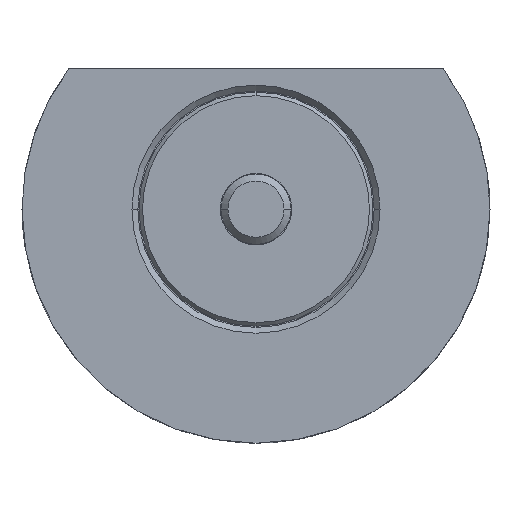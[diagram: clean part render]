
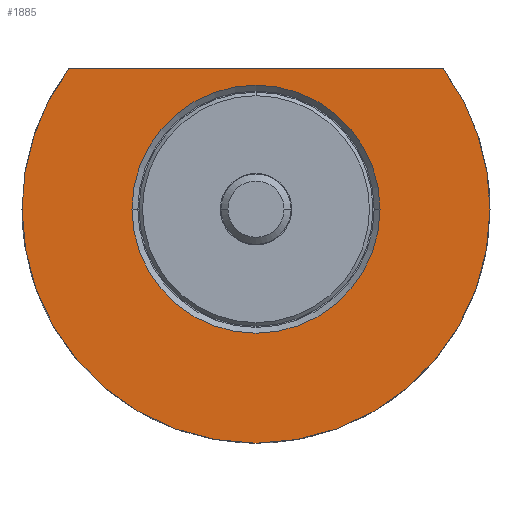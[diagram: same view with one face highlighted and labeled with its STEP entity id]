
A CAD part, front view. The second image highlights one B-rep face of the part: STEP entity #1885.
In plain terms, the highlighted planar face has unit normal (0, -1, 0).
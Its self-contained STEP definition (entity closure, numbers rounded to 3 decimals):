
#42 = VERTEX_POINT ( 'NONE', #680 ) ;
#120 = PLANE ( 'NONE',  #1902 ) ;
#137 = CIRCLE ( 'NONE', #440, 20. ) ;
#162 = EDGE_CURVE ( 'NONE', #2405, #42, #237, .T. ) ;
#188 = CARTESIAN_POINT ( 'NONE',  ( 16.001, -10., 11.999 ) ) ;
#191 = EDGE_CURVE ( 'NONE', #1190, #638, #1950, .T. ) ;
#237 = CIRCLE ( 'NONE', #1744, 20. ) ;
#263 = CARTESIAN_POINT ( 'NONE',  ( 20., -10., 0. ) ) ;
#264 = DIRECTION ( 'NONE',  ( 0., 1., 0. ) ) ;
#313 = CARTESIAN_POINT ( 'NONE',  ( -10.6, -10., 0. ) ) ;
#377 = EDGE_CURVE ( 'NONE', #1141, #2641, #137, .T. ) ;
#393 = ORIENTED_EDGE ( 'NONE', *, *, #191, .T. ) ;
#440 = AXIS2_PLACEMENT_3D ( 'NONE', #512, #2363, #1793 ) ;
#447 = AXIS2_PLACEMENT_3D ( 'NONE', #2239, #2078, #1263 ) ;
#499 = DIRECTION ( 'NONE',  ( 0., 1., 0. ) ) ;
#512 = CARTESIAN_POINT ( 'NONE',  ( 0., -10., 0. ) ) ;
#600 = DIRECTION ( 'NONE',  ( -1., 0., 0. ) ) ;
#638 = VERTEX_POINT ( 'NONE', #1707 ) ;
#647 = ORIENTED_EDGE ( 'NONE', *, *, #1212, .F. ) ;
#674 = CARTESIAN_POINT ( 'NONE',  ( 0., -10., 0. ) ) ;
#680 = CARTESIAN_POINT ( 'NONE',  ( -16.001, -10., 11.999 ) ) ;
#764 = DIRECTION ( 'NONE',  ( 0., 1., 0. ) ) ;
#765 = FACE_BOUND ( 'NONE', #1484, .T. ) ;
#828 = EDGE_LOOP ( 'NONE', ( #2132, #2588, #1282, #647 ) ) ;
#837 = CIRCLE ( 'NONE', #447, 10.6 ) ;
#911 = LINE ( 'NONE', #1729, #1008 ) ;
#1008 = VECTOR ( 'NONE', #2545, 1000. ) ;
#1042 = CIRCLE ( 'NONE', #1607, 20. ) ;
#1141 = VERTEX_POINT ( 'NONE', #188 ) ;
#1165 = DIRECTION ( 'NONE',  ( 0., -1., 0. ) ) ;
#1190 = VERTEX_POINT ( 'NONE', #1404 ) ;
#1212 = EDGE_CURVE ( 'NONE', #2641, #2405, #1042, .T. ) ;
#1263 = DIRECTION ( 'NONE',  ( -1., 0., 0. ) ) ;
#1282 = ORIENTED_EDGE ( 'NONE', *, *, #162, .F. ) ;
#1289 = CARTESIAN_POINT ( 'NONE',  ( 0., -10., 0. ) ) ;
#1401 = AXIS2_PLACEMENT_3D ( 'NONE', #674, #264, #1672 ) ;
#1404 = CARTESIAN_POINT ( 'NONE',  ( -10.6, -10., 0. ) ) ;
#1484 = EDGE_LOOP ( 'NONE', ( #2339, #393 ) ) ;
#1495 = DIRECTION ( 'NONE',  ( -1., 0., 0. ) ) ;
#1607 = AXIS2_PLACEMENT_3D ( 'NONE', #2411, #764, #600 ) ;
#1672 = DIRECTION ( 'NONE',  ( -1., 0., 0. ) ) ;
#1707 = CARTESIAN_POINT ( 'NONE',  ( 10.6, -10., 0. ) ) ;
#1729 = CARTESIAN_POINT ( 'NONE',  ( -10.6, -10., 11.999 ) ) ;
#1744 = AXIS2_PLACEMENT_3D ( 'NONE', #1289, #499, #1495 ) ;
#1793 = DIRECTION ( 'NONE',  ( -1., 0., 0. ) ) ;
#1799 = DIRECTION ( 'NONE',  ( 1., 0., 0. ) ) ;
#1849 = EDGE_CURVE ( 'NONE', #1141, #42, #911, .T. ) ;
#1885 = ADVANCED_FACE ( 'NONE', ( #765, #2151 ), #120, .T. ) ;
#1902 = AXIS2_PLACEMENT_3D ( 'NONE', #313, #1165, #1799 ) ;
#1950 = CIRCLE ( 'NONE', #1401, 10.6 ) ;
#2078 = DIRECTION ( 'NONE',  ( 0., 1., 0. ) ) ;
#2132 = ORIENTED_EDGE ( 'NONE', *, *, #377, .F. ) ;
#2151 = FACE_OUTER_BOUND ( 'NONE', #828, .T. ) ;
#2239 = CARTESIAN_POINT ( 'NONE',  ( 0., -10., 0. ) ) ;
#2339 = ORIENTED_EDGE ( 'NONE', *, *, #2382, .T. ) ;
#2363 = DIRECTION ( 'NONE',  ( 0., 1., 0. ) ) ;
#2382 = EDGE_CURVE ( 'NONE', #638, #1190, #837, .T. ) ;
#2405 = VERTEX_POINT ( 'NONE', #2480 ) ;
#2411 = CARTESIAN_POINT ( 'NONE',  ( 0., -10., 0. ) ) ;
#2480 = CARTESIAN_POINT ( 'NONE',  ( -20., -10., 0. ) ) ;
#2545 = DIRECTION ( 'NONE',  ( -1., 0., 0. ) ) ;
#2588 = ORIENTED_EDGE ( 'NONE', *, *, #1849, .T. ) ;
#2641 = VERTEX_POINT ( 'NONE', #263 ) ;
